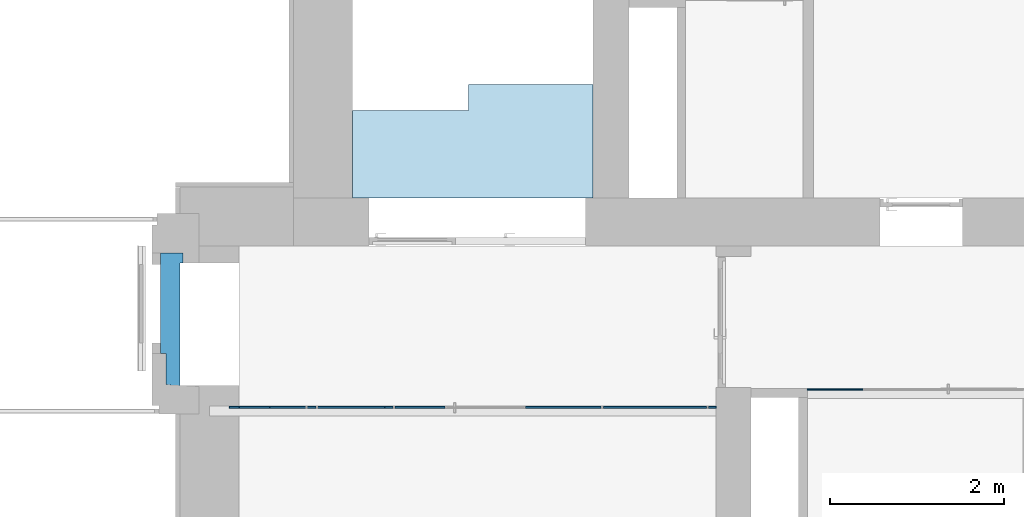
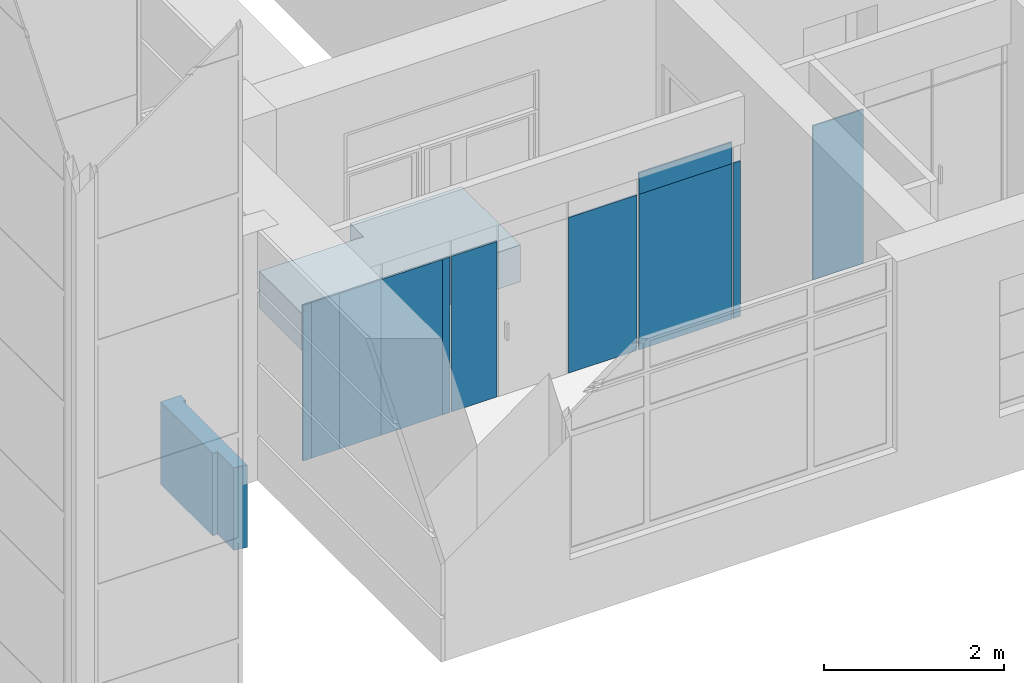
# One storey, part 15 of 66: 11 plates, 2 slabs, 2 elements without a shape of their own.
"""IFC2X3 building model written with IfcOpenShell, lengths in millimetres."""

from ifc_helpers import new_model, entity, si_unit, converted_unit, derived_unit, direction, frame, origin, origin_2d_with_axis, place, context, subcontext, project, spatial, polyline, rectangle, outline, extrude, source, transform, mapped, material, layer, layer_set, layer_usage, type_object, type_shapes, element, aggregate, save


model = new_model("IFC2X3")

# Units and contexts
model_context = context("Model", 3, precision=0.01, world=origin(), true_north=direction((6.12303176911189e-17, 1.0)))
body_context = subcontext(model_context, "Body", "Model", "MODEL_VIEW")
ifc_project = project(units=[si_unit("LENGTHUNIT", "METRE", prefix="MILLI"), si_unit("AREAUNIT", "SQUARE_METRE"), si_unit("VOLUMEUNIT", "CUBIC_METRE"), converted_unit("PLANEANGLEUNIT", "DEGREE", entity("IfcRatioMeasure", 0.0174532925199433), si_unit("PLANEANGLEUNIT", "RADIAN"), dimensions=[0, 0, 0, 0, 0, 0, 0]), si_unit("MASSUNIT", "GRAM", prefix="KILO"), derived_unit("MASSDENSITYUNIT", [(si_unit("MASSUNIT", "GRAM", prefix="KILO"), 1), (si_unit("LENGTHUNIT", "METRE"), -3)]), si_unit("TIMEUNIT", "SECOND"), si_unit("FREQUENCYUNIT", "HERTZ"), si_unit("THERMODYNAMICTEMPERATUREUNIT", "DEGREE_CELSIUS"), derived_unit("THERMALTRANSMITTANCEUNIT", [(si_unit("MASSUNIT", "GRAM", prefix="KILO"), 1), (si_unit("THERMODYNAMICTEMPERATUREUNIT", "KELVIN"), -1), (si_unit("TIMEUNIT", "SECOND"), -3)]), derived_unit("VOLUMETRICFLOWRATEUNIT", [(si_unit("LENGTHUNIT", "METRE"), 3), (si_unit("TIMEUNIT", "SECOND"), -1)]), si_unit("ELECTRICCURRENTUNIT", "AMPERE"), si_unit("ELECTRICVOLTAGEUNIT", "VOLT"), si_unit("POWERUNIT", "WATT"), si_unit("FORCEUNIT", "NEWTON", prefix="KILO"), si_unit("ILLUMINANCEUNIT", "LUX"), si_unit("LUMINOUSFLUXUNIT", "LUMEN"), si_unit("LUMINOUSINTENSITYUNIT", "CANDELA"), derived_unit("USERDEFINED", [(si_unit("MASSUNIT", "GRAM", prefix="KILO"), -1), (si_unit("LENGTHUNIT", "METRE"), -2), (si_unit("TIMEUNIT", "SECOND"), 3), (si_unit("LUMINOUSFLUXUNIT", "LUMEN"), 1)]), derived_unit("LINEARVELOCITYUNIT", [(si_unit("LENGTHUNIT", "METRE"), 1), (si_unit("TIMEUNIT", "SECOND"), -1)]), si_unit("PRESSUREUNIT", "PASCAL"), derived_unit("USERDEFINED", [(si_unit("LENGTHUNIT", "METRE"), -2), (si_unit("MASSUNIT", "GRAM", prefix="KILO"), 1), (si_unit("TIMEUNIT", "SECOND"), -2)])], contexts=[model_context])

# Site, building, storey
site_placement = place(None, frame((-151.875543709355, 2715.0, 0.0)))
site = spatial("IfcSite", under=ifc_project, at=site_placement, Name="Surface", CompositionType="ELEMENT")
building_placement = place(site_placement, origin())
building = spatial("IfcBuilding", under=site, at=building_placement, CompositionType="ELEMENT")
storey_placement = place(building_placement, frame((0.0, 0.0, 3350.0)))
storey = spatial("IfcBuildingStorey", under=building, at=storey_placement, Name="2 korrus", CompositionType="ELEMENT", Elevation=3350.00000000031)

# Curtain wall, plates
curtain_wall_type_1 = type_object("IfcCurtainWallType", Name="Curtain Wall:Klaassein KLS-07", PredefinedType="NOTDEFINED")
curtain_wall_1_placement = place(storey_placement, frame((0.0, 0.0, -3350.0)))
curtain_wall_1 = element("IfcCurtainWall", 1, at=curtain_wall_1_placement, inside=storey, type_object=curtain_wall_type_1, Name="Curtain Wall:Klaassein KLS-07", ObjectType="Curtain Wall:Klaassein KLS-07")
ifc_material_1 = material(Name="<Unnamed>")
ifc_layer_1 = layer(ifc_material_1, 20.0)
ifc_layer_set_1 = layer_set([ifc_layer_1], Name="Curtain Wall:Klaassein KLS-01")
ifc_layer_usage_1 = layer_usage(ifc_layer_set_1, "AXIS3", "POSITIVE", 0.0)
plate_type_1 = type_object("IfcPlateType", Name="Glazed", PredefinedType="CURTAIN_PANEL", material=ifc_layer_set_1)
shared_shape_1 = source(origin(), body_context, "Body", "SweptSolid", [
    extrude(rectangle(XDim=20.0, YDim=354.999999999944, at=origin_2d_with_axis()), frame((0.0, 0.0, 0.0), z_axis=(0.0, 0.0, 1.0), x_axis=(0.0, 1.0, 0.0)), (0.0, 0.0, 1.0), 2110.0),
])
type_shapes(plate_type_1, [shared_shape_1])
plate_1_placement = place(curtain_wall_1_placement, frame((639.993529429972, 4150.48849455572, 3350.0)))
plate_1 = element("IfcPlate", 2, at=plate_1_placement, type_object=plate_type_1, material=ifc_layer_usage_1, Name="System Panel:Glazed", ObjectType="Glazed", context=body_context, shape_type="MappedRepresentation", body=[
    mapped(shared_shape_1, transform((0.0, 0.0, 0.0), scale=1.0)),
])
ifc_layer_usage_2 = layer_usage(ifc_layer_set_1, "AXIS3", "POSITIVE", 0.0)
plate_type_2 = type_object("IfcPlateType", Name="Glazed", PredefinedType="CURTAIN_PANEL", material=ifc_layer_set_1)
shared_shape_2 = source(origin(), body_context, "Body", "SweptSolid", [
    extrude(rectangle(XDim=20.0, YDim=535.000000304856, at=origin_2d_with_axis()), frame((0.0, 0.0, 0.0), z_axis=(0.0, 0.0, 1.0), x_axis=(0.0, 1.0, 0.0)), (0.0, 0.0, 1.0), 2110.0),
])
type_shapes(plate_type_2, [shared_shape_2])
plate_2_placement = place(curtain_wall_1_placement, frame((1084.99352958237, 4150.48849455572, 3350.0)))
plate_2 = element("IfcPlate", 3, at=plate_2_placement, type_object=plate_type_2, material=ifc_layer_usage_2, Name="System Panel:Glazed", ObjectType="Glazed", context=body_context, shape_type="MappedRepresentation", body=[
    mapped(shared_shape_2, transform((0.0, 0.0, 0.0), scale=1.0)),
])
ifc_layer_usage_3 = layer_usage(ifc_layer_set_1, "AXIS3", "POSITIVE", 0.0)
plate_type_3 = type_object("IfcPlateType", Name="Glazed", PredefinedType="CURTAIN_PANEL", material=ifc_layer_set_1)
shared_shape_3 = source(origin(), body_context, "Body", "SweptSolid", [
    extrude(rectangle(XDim=20.0, YDim=880.000000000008, at=origin_2d_with_axis()), frame((0.0, 0.0, 0.0), z_axis=(0.0, 0.0, 1.0), x_axis=(0.0, 1.0, 0.0)), (0.0, 0.0, 1.0), 2110.0),
])
type_shapes(plate_type_3, [shared_shape_3])
plate_3_placement = place(curtain_wall_1_placement, frame((790.375545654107, 4150.48849455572, 3350.0)))
plate_3 = element("IfcPlate", 4, at=plate_3_placement, type_object=plate_type_3, material=ifc_layer_usage_3, Name="System Panel:Glazed", ObjectType="Glazed", context=body_context, shape_type="MappedRepresentation", body=[
    mapped(shared_shape_3, transform((0.0, 0.0, 0.0), scale=1.0)),
])
ifc_layer_usage_4 = layer_usage(ifc_layer_set_1, "AXIS3", "POSITIVE", 0.0)
plate_4_placement = place(curtain_wall_1_placement, frame((4199.87554580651, 4150.48849455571, 3350.0)))
plate_4 = element("IfcPlate", 5, at=plate_4_placement, type_object=plate_type_3, material=ifc_layer_usage_4, Name="System Panel:Glazed", ObjectType="Glazed", context=body_context, shape_type="MappedRepresentation", body=[
    mapped(shared_shape_3, transform((0.0, 0.0, 0.0), scale=1.0)),
])
ifc_layer_usage_5 = layer_usage(ifc_layer_set_1, "AXIS3", "POSITIVE", 0.0)
plate_type_4 = type_object("IfcPlateType", Name="Glazed", PredefinedType="CURTAIN_PANEL", material=ifc_layer_set_1)
shared_shape_4 = source(origin(), body_context, "Body", "SweptSolid", [
    extrude(rectangle(XDim=20.0, YDim=890.000000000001, at=origin_2d_with_axis()), frame((0.0, 0.0, 0.0), z_axis=(0.0, 0.0, 1.0), x_axis=(0.0, 1.0, 0.0)), (0.0, 0.0, 1.0), 2110.0),
])
type_shapes(plate_type_4, [shared_shape_4])
plate_5_placement = place(curtain_wall_1_placement, frame((1695.37554580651, 4150.48849455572, 3350.0)))
plate_5 = element("IfcPlate", 6, at=plate_5_placement, type_object=plate_type_4, material=ifc_layer_usage_5, Name="System Panel:Glazed", ObjectType="Glazed", context=body_context, shape_type="MappedRepresentation", body=[
    mapped(shared_shape_4, transform((0.0, 0.0, 0.0), scale=1.0)),
])
ifc_layer_usage_6 = layer_usage(ifc_layer_set_1, "AXIS3", "POSITIVE", 0.0)
plate_type_5 = type_object("IfcPlateType", Name="Glazed", PredefinedType="CURTAIN_PANEL", material=ifc_layer_set_1)
shared_shape_5 = source(origin(), body_context, "Body", "SweptSolid", [
    extrude(rectangle(XDim=20.0, YDim=99.5000000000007, at=origin_2d_with_axis()), frame((0.0, 0.0, 0.0), z_axis=(0.0, 0.0, 1.0), x_axis=(0.0, 1.0, 0.0)), (0.0, 0.0, 1.0), 2110.0),
])
type_shapes(plate_type_5, [shared_shape_5])
plate_6_placement = place(curtain_wall_1_placement, frame((2190.12554580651, 4150.48849455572, 3350.0)))
plate_6 = element("IfcPlate", 7, at=plate_6_placement, type_object=plate_type_5, material=ifc_layer_usage_6, Name="System Panel:Glazed", ObjectType="Glazed", context=body_context, shape_type="MappedRepresentation", body=[
    mapped(shared_shape_5, transform((0.0, 0.0, 0.0), scale=1.0)),
])
ifc_layer_usage_7 = layer_usage(ifc_layer_set_1, "AXIS3", "POSITIVE", 0.0)
plate_type_6 = type_object("IfcPlateType", Name="Glazed", PredefinedType="CURTAIN_PANEL", material=ifc_layer_set_1)
shared_shape_6 = source(origin(), body_context, "Body", "SweptSolid", [
    extrude(rectangle(XDim=20.0, YDim=580.0, at=origin_2d_with_axis()), frame((0.0, 0.0, 0.0), z_axis=(0.0, 0.0, 1.0), x_axis=(0.0, 1.0, 0.0)), (0.0, 0.0, 1.0), 2110.0),
])
type_shapes(plate_type_6, [shared_shape_6])
plate_7_placement = place(curtain_wall_1_placement, frame((2549.87554580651, 4150.48849455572, 3350.0)))
plate_7 = element("IfcPlate", 8, at=plate_7_placement, type_object=plate_type_6, material=ifc_layer_usage_7, Name="System Panel:Glazed", ObjectType="Glazed", context=body_context, shape_type="MappedRepresentation", body=[
    mapped(shared_shape_6, transform((0.0, 0.0, 0.0), scale=1.0)),
])
ifc_layer_usage_8 = layer_usage(ifc_layer_set_1, "AXIS3", "POSITIVE", 0.0)
plate_type_7 = type_object("IfcPlateType", Name="Glazed", PredefinedType="CURTAIN_PANEL", material=ifc_layer_set_1)
shared_shape_7 = source(origin(), body_context, "Body", "SweptSolid", [
    extrude(rectangle(XDim=20.0, YDim=1192.61798392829, at=origin_2d_with_axis()), frame((0.0, 0.0, 0.0), z_axis=(0.0, 0.0, 1.0), x_axis=(0.0, 1.0, 0.0)), (0.0, 0.0, 1.0), 2110.0),
])
type_shapes(plate_type_7, [shared_shape_7])
plate_8_placement = place(curtain_wall_1_placement, frame((5256.18453777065, 4150.48849455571, 3350.0)))
plate_8 = element("IfcPlate", 9, at=plate_8_placement, type_object=plate_type_7, material=ifc_layer_usage_8, Name="System Panel:Glazed", ObjectType="Glazed", context=body_context, shape_type="MappedRepresentation", body=[
    mapped(shared_shape_7, transform((0.0, 0.0, 0.0), scale=1.0)),
])
ifc_layer_usage_9 = layer_usage(ifc_layer_set_1, "AXIS3", "POSITIVE", 0.0)
plate_type_8 = type_object("IfcPlateType", Name="Glazed", PredefinedType="CURTAIN_PANEL", material=ifc_layer_set_1)
shared_shape_8 = source(origin(), body_context, "Body", "SweptSolid", [
    extrude(rectangle(XDim=20.0, YDim=89.9999996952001, at=origin_2d_with_axis()), frame((0.0, 0.0, 0.0), z_axis=(0.0, 0.0, 1.0), x_axis=(0.0, 1.0, 0.0)), (0.0, 0.0, 1.0), 2110.0),
])
type_shapes(plate_type_8, [shared_shape_8])
plate_9_placement = place(curtain_wall_1_placement, frame((5917.4935295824, 4150.48849455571, 3350.0)))
plate_9 = element("IfcPlate", 10, at=plate_9_placement, type_object=plate_type_8, material=ifc_layer_usage_9, Name="System Panel:Glazed", ObjectType="Glazed", context=body_context, shape_type="MappedRepresentation", body=[
    mapped(shared_shape_8, transform((0.0, 0.0, 0.0), scale=1.0)),
])
ifc_layer_usage_10 = layer_usage(ifc_layer_set_1, "AXIS3", "POSITIVE", 0.0)
plate_type_9 = type_object("IfcPlateType", Name="Glazed", PredefinedType="CURTAIN_PANEL", material=ifc_layer_set_1)
shared_shape_9 = source(origin(), body_context, "Body", "SweptSolid", [
    extrude(rectangle(XDim=20.0, YDim=1192.61798392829, at=origin_2d_with_axis()), frame((0.0, 0.0, 0.0), z_axis=(0.0, 0.0, 1.0), x_axis=(0.0, 1.0, 0.0)), (0.0, 0.0, 1.0), 290.000000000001),
])
type_shapes(plate_type_9, [shared_shape_9])
plate_10_placement = place(curtain_wall_1_placement, frame((5256.18453777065, 4150.48849455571, 5460.0)))
plate_10 = element("IfcPlate", 11, at=plate_10_placement, type_object=plate_type_9, material=ifc_layer_usage_10, Name="System Panel:Glazed", ObjectType="Glazed", context=body_context, shape_type="MappedRepresentation", body=[
    mapped(shared_shape_9, transform((0.0, 0.0, 0.0), scale=1.0)),
])
aggregate(curtain_wall_1, [plate_1, plate_2, plate_3, plate_5, plate_6, plate_7, plate_4, plate_8, plate_9, plate_10])

# Curtain wall, plate
curtain_wall_type_2 = type_object("IfcCurtainWallType", Name="Curtain Wall:Klaassein KLS-08", PredefinedType="NOTDEFINED")
curtain_wall_2_placement = place(storey_placement, frame((0.0, 0.0, -3350.0)))
curtain_wall_2 = element("IfcCurtainWall", 12, at=curtain_wall_2_placement, inside=storey, type_object=curtain_wall_type_2, Name="Curtain Wall:Klaassein KLS-08", ObjectType="Curtain Wall:Klaassein KLS-08")
ifc_layer_usage_11 = layer_usage(ifc_layer_set_1, "AXIS3", "POSITIVE", 0.0)
plate_type_10 = type_object("IfcPlateType", Name="Glazed", PredefinedType="CURTAIN_PANEL", material=ifc_layer_set_1)
shared_shape_10 = source(origin(), body_context, "Body", "SweptSolid", [
    extrude(rectangle(XDim=20.0, YDim=646.991078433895, at=origin_2d_with_axis()), frame((0.0, 0.0, 0.0), z_axis=(0.0, 0.0, 1.0), x_axis=(0.0, 1.0, 0.0)), (0.0, 0.0, 1.0), 2090.0),
])
type_shapes(plate_type_10, [shared_shape_10])
plate_11_placement = place(curtain_wall_2_placement, frame((7335.98906864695, 4355.04493399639, 3350.0)))
plate_11 = element("IfcPlate", 13, at=plate_11_placement, type_object=plate_type_10, material=ifc_layer_usage_11, Name="System Panel:Glazed", ObjectType="Glazed", context=body_context, shape_type="MappedRepresentation", body=[
    mapped(shared_shape_10, transform((0.0, 0.0, 0.0), scale=1.0)),
])
aggregate(curtain_wall_2, [plate_11])

# Slabs
ifc_material_2 = material(Name="GENEERILINE - KONSTRUKTRIOON")
ifc_layer_2 = layer(ifc_material_2, 1120.0)
ifc_layer_set_2 = layer_set([ifc_layer_2], Name="Floor:VAHELAGI - 005")
ifc_layer_usage_12 = layer_usage(ifc_layer_set_2, "AXIS3", "POSITIVE", 0.0)
slab_1_placement = place(storey_placement, origin())
element("IfcSlab", 14, at=slab_1_placement, inside=storey, material=ifc_layer_usage_12, Name="Floor:VAHELAGI - 005", ObjectType="Floor:VAHELAGI - 005", PredefinedType="FLOOR", context=body_context, shape_type="SweptSolid", body=[
    extrude(outline(polyline([(-701.428302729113, -122.750894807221), (-583.111652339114, -122.750894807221), (-583.111652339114, -86.9270900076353), (838.702292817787, -86.9270900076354), (815.783611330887, 73.8182771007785), (457.297002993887, 73.8182771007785), (457.297002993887, 135.895925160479), (-701.428302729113, 135.823490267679), (-701.428302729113, -122.750894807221)])), frame((-306.051544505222, 5228.68262866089, 0.0), z_axis=(0.0, 0.0, -1.0), x_axis=(0.0, -1.0, 0.0)), (0.0, 0.0, 1.0), 1120.0),
])
ifc_material_3 = material(Name="Betoonplaat")
ifc_layer_3 = layer(ifc_material_3, 500.0)
ifc_layer_set_3 = layer_set([ifc_layer_3], Name="Floor:Trepimade4")
ifc_layer_usage_13 = layer_usage(ifc_layer_set_3, "AXIS3", "POSITIVE", 0.0)
slab_2_placement = place(storey_placement, origin())
element("IfcSlab", 15, at=slab_2_placement, inside=storey, material=ifc_layer_usage_13, Name="Floor:Trepimade4", ObjectType="Floor:Trepimade4", PredefinedType="FLOOR", context=body_context, shape_type="SweptSolid", body=[
    extrude(outline(polyline([(-773.048615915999, -1370.22816312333), (237.455146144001, -1370.22816312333), (237.455146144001, -30.2281631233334), (535.593469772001, -30.2281631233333), (535.593469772, 1400.45632624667), (-773.048615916, 1400.45632624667), (-773.048615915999, -1370.22816312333)])), frame((3140.22816312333, 7333.048615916, 0.0), z_axis=(0.0, 0.0, -1.0), x_axis=(0.0, 1.0, 0.0)), (0.0, 0.0, 1.0), 500.0),
])

save(model, "model.ifc")
